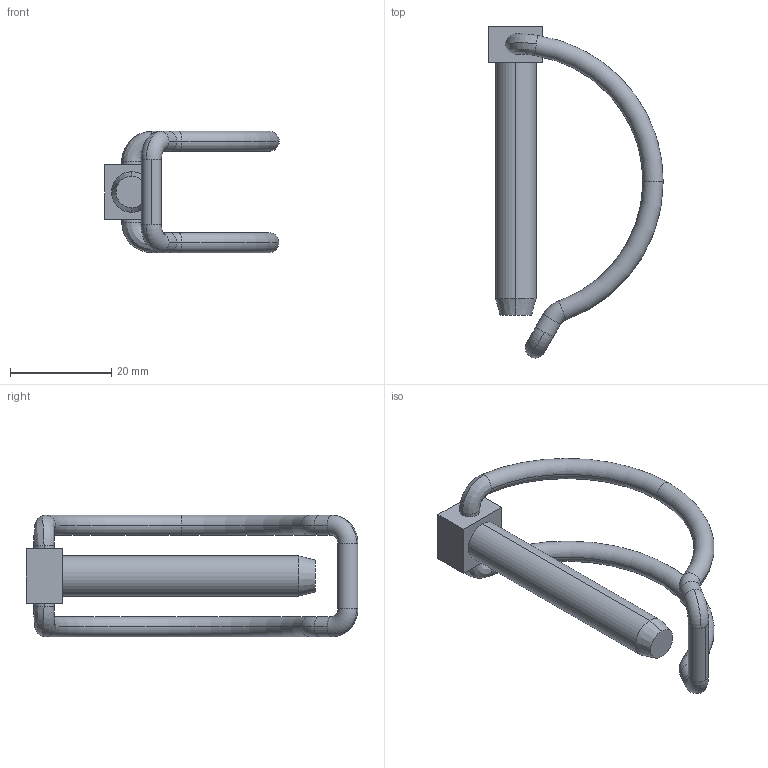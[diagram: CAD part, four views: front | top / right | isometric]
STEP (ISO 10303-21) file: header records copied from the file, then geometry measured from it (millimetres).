
FILE_DESCRIPTION (( 'STEP AP203' ), '1' );
FILE_NAME ('33320.W0082.step', '2025-02-04T13:40:53', ( '' ), ( '' ), 'SwSTEP 2.0', 'SolidWorks 2019', '' );
FILE_SCHEMA (( 'CONFIG_CONTROL_DESIGN' ));
Length unit declared in the file: millimetre
Products named in the file (3): part1_33320.W0082; 33320.W0082; Part5_33320.W0082
Assembly tree (2 placements, depth 2):
  33320.W0082
    part1_33320.W0082
    Part5_33320.W0082
Bounding box: 34.43 x 65.51 x 24 mm (x, y, z)
Volume: 5661.4 mm3; surface area: 4402.5 mm2
Topology: 2 solids, 2 shells, 43 faces, 98 edges, 60 vertices
Faces by surface type: cylinder 14, torus 14, plane 9, bspline 4, cone 2
Entity records: 1827 total; most frequent: CARTESIAN_POINT 518, DIRECTION 248, ORIENTED_EDGE 196, AXIS2_PLACEMENT_3D 110, EDGE_CURVE 98, CIRCLE 66, VERTEX_POINT 60, EDGE_LOOP 46
